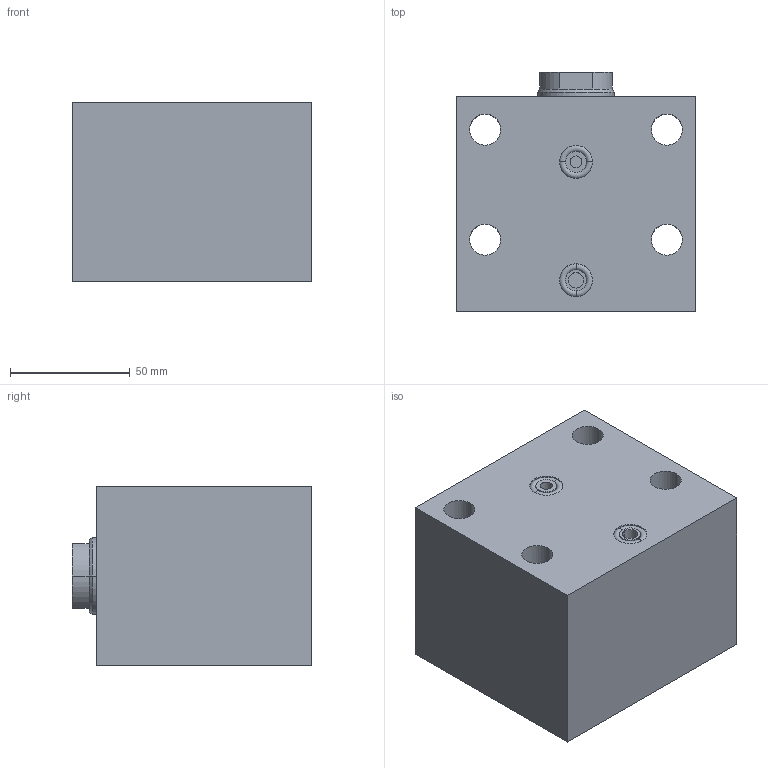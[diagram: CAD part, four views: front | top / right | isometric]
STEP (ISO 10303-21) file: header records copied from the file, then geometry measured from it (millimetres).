
FILE_DESCRIPTION (( 'STEP AP203' ), '1' );
FILE_NAME ('GERMA_Blockzylinder_603-050-025.STEP', '2016-01-24T17:19:48', ( '' ), ( '' ), 'SwSTEP 2.0', 'SolidWorks 2015', '' );
FILE_SCHEMA (( 'CONFIG_CONTROL_DESIGN' ));
Length unit declared in the file: millimetre
Products named in the file (3): Kolben 60x-050_Kolben DU.50-Hub25-IG; GH-600-050_GH-603-050-025; GERMA_Blockzylinder_603-050-025
Assembly tree (2 placements, depth 2):
  GERMA_Blockzylinder_603-050-025
    GH-600-050_GH-603-050-025
    Kolben 60x-050_Kolben DU.50-Hub25-IG
Bounding box: 100 x 100 x 75 mm (x, y, z)
Volume: 603319.4 mm3; surface area: 87127.1 mm2
Topology: 2 solids, 2 shells, 81 faces, 176 edges, 106 vertices
Faces by surface type: cylinder 41, plane 22, cone 14, torus 4
Entity records: 2506 total; most frequent: DIRECTION 439, CARTESIAN_POINT 362, ORIENTED_EDGE 340, AXIS2_PLACEMENT_3D 183, EDGE_CURVE 170, VERTEX_POINT 106, EDGE_LOOP 102, CIRCLE 97
